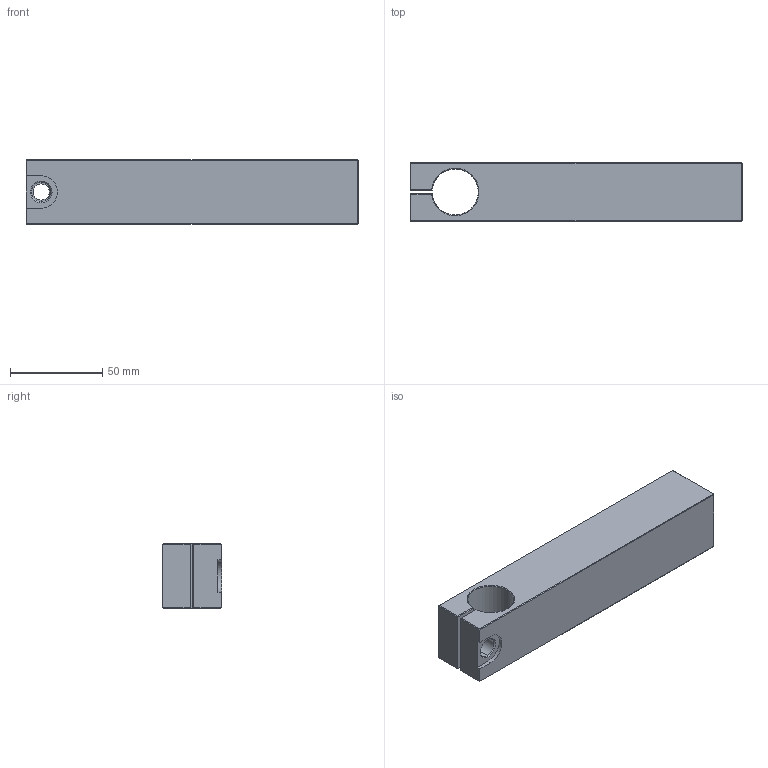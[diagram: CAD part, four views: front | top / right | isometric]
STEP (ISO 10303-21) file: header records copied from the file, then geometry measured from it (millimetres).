
FILE_DESCRIPTION (( 'STEP AP203' ), '1' );
FILE_NAME ('WHZ0630-F.step', '2010-04-21T15:44:13', ( ' ' ), ( ' ' ), 'SwSTEP 2.0', 'SolidWorks 2009', '' );
FILE_SCHEMA (( 'CONFIG_CONTROL_DESIGN' ));
Length unit declared in the file: millimetre
Products named in the file (1): WHZ0630-F
Bounding box: 180 x 32 x 35 mm (x, y, z)
Volume: 180875.3 mm3; surface area: 29036.5 mm2
Topology: 1 solids, 1 shells, 48 faces, 114 edges, 67 vertices
Faces by surface type: plane 33, cylinder 10, cone 5
Entity records: 1480 total; most frequent: CARTESIAN_POINT 291, DIRECTION 231, ORIENTED_EDGE 228, EDGE_CURVE 114, LINE 81, VECTOR 81, AXIS2_PLACEMENT_3D 75, VERTEX_POINT 67
